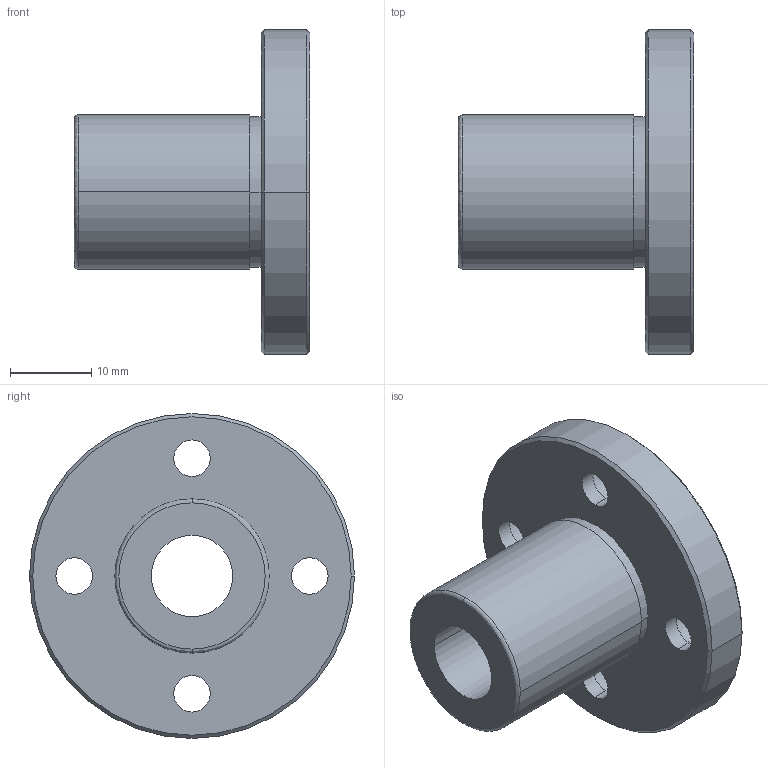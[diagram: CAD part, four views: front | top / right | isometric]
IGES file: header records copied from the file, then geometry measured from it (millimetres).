
Start section: 3D InterOp IGES (Version 21 0 1), Spatial Corp. Copyright (c) 1999-2007.
Global section: file name: NFED-10VUU.igs; native system: Spatial Corp.; preprocessor: 3D InterOp GENERIC/IGES 3.0; author: Noname; organization: Noname; date: 20220308.100910; units: millimetre
Bounding box: 29 x 40 x 40 mm (x, y, z)
Surface area: 5715.8 mm2 (no closed solid volume)
Topology: 0 solids, 0 shells, 38 faces, 174 edges, 174 vertices
Faces by surface type: revolution 30, extrusion 8
